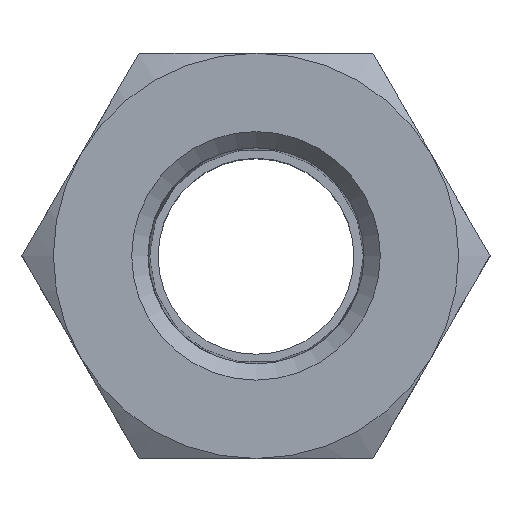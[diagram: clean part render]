
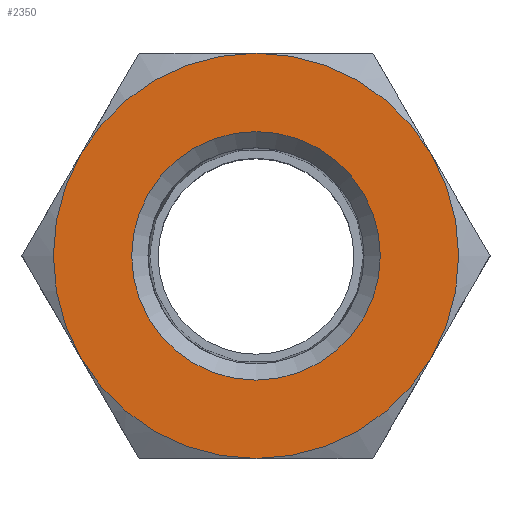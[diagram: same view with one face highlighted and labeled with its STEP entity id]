
A CAD part, top view. The second image highlights one B-rep face of the part: STEP entity #2350.
In plain terms, the highlighted planar face has unit normal (0, 0, 1).
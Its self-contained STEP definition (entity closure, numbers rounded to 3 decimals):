
#2350=ADVANCED_FACE('', (#2360,#2370), #2380, .T.);
#7640=AXIS2_PLACEMENT_3D('Ax2Pl3d', #7650, #7660, #7670);
#7680=AXIS2_PLACEMENT_3D('Ax2Pl3d', #7690, #7700, #7710);
#7720=AXIS2_PLACEMENT_3D('Ax2Pl3d', #7730, #7740, #7750);
#7760=AXIS2_PLACEMENT_3D('Ax2Pl3d', #7770, #7780, #7790);
#7800=AXIS2_PLACEMENT_3D('Ax2Pl3d', #7810, #7820, #7830);
#7840=AXIS2_PLACEMENT_3D('Ax2Pl3d', #7850, #7860, #7870);
#7880=AXIS2_PLACEMENT_3D('Ax2Pl3d', #7890, #7900, #7910);
#7920=AXIS2_PLACEMENT_3D('Ax2Pl3d', #7930, #7940, #7950);
#11340=CARTESIAN_POINT('', (12.561,25.818,50.819));
#11420=CARTESIAN_POINT('', (25.551,33.318,50.819));
#11430=CARTESIAN_POINT('', (38.541,25.818,50.819));
#11460=CARTESIAN_POINT('', (38.541,10.818,50.819));
#11490=CARTESIAN_POINT('', (25.551,3.318,50.819));
#11520=CARTESIAN_POINT('', (12.561,10.818,50.819));
#7650=CARTESIAN_POINT('HicPkt', (25.551,18.318,50.819));
#7690=CARTESIAN_POINT('HicPkt', (25.551,3.318,50.819));
#7730=CARTESIAN_POINT('HicPkt', (25.551,18.318,50.819));
#7770=CARTESIAN_POINT('HicPkt', (25.551,18.318,50.819));
#7810=CARTESIAN_POINT('HicPkt', (25.551,18.318,50.819));
#7850=CARTESIAN_POINT('HicPkt', (25.551,18.318,50.819));
#7890=CARTESIAN_POINT('HicPkt', (25.551,18.318,50.819));
#7930=CARTESIAN_POINT('HicPkt', (25.551,18.318,50.819));
#11530=CARTESIAN_POINT('', (25.551,27.518,50.819));
#12080=CIRCLE('Circle', #7640, 15.);
#12090=CIRCLE('Circle', #7720, 15.);
#12100=CIRCLE('Circle', #7760, 15.);
#12110=CIRCLE('Circle', #7800, 15.);
#12120=CIRCLE('Circle', #7840, 15.);
#12130=CIRCLE('Circle', #7880, 15.);
#12140=CIRCLE('Circle', #7920, 9.2);
#7660=DIRECTION('Axis', (0.,0.,-1.));
#7670=DIRECTION('RefDirection', (-1.,-0.,0.));
#7700=DIRECTION('Axis', (0.,0.,1.));
#7710=DIRECTION('RefDirection', (1.,0.,-0.));
#7740=DIRECTION('Axis', (0.,0.,-1.));
#7750=DIRECTION('RefDirection', (-1.,-0.,0.));
#7780=DIRECTION('Axis', (0.,0.,-1.));
#7790=DIRECTION('RefDirection', (-1.,-0.,0.));
#7820=DIRECTION('Axis', (0.,0.,-1.));
#7830=DIRECTION('RefDirection', (-1.,-0.,0.));
#7860=DIRECTION('Axis', (0.,0.,-1.));
#7870=DIRECTION('RefDirection', (-1.,-0.,0.));
#7900=DIRECTION('Axis', (0.,0.,-1.));
#7910=DIRECTION('RefDirection', (-1.,-0.,0.));
#7940=DIRECTION('Axis', (0.,0.,-1.));
#7950=DIRECTION('RefDirection', (-1.,-0.,0.));
#17790=EDGE_CURVE('', #17710, #17770, #12080, .T.);
#17800=EDGE_CURVE('', #17650, #17710, #12090, .T.);
#17810=EDGE_CURVE('', #17590, #17650, #12100, .T.);
#17820=EDGE_CURVE('', #17560, #17590, #12110, .T.);
#17830=EDGE_CURVE('', #17390, #17560, #12120, .T.);
#17840=EDGE_CURVE('', #17770, #17390, #12130, .T.);
#17850=EDGE_CURVE('', #17860, #17860, #12140, .T.);
#20720=EDGE_LOOP('Edge_loop', (#20730,#20740,#20750,#20760,#20770,
#20780));
#20790=EDGE_LOOP('Edge_loop', (#20800));
#2370=FACE_BOUND('', #20790, .T.);
#2360=FACE_OUTER_BOUND('Face_outer_bound', #20720, .T.);
#20730=ORIENTED_EDGE('', *, *, #17790, .F.);
#20740=ORIENTED_EDGE('', *, *, #17800, .F.);
#20750=ORIENTED_EDGE('', *, *, #17810, .F.);
#20760=ORIENTED_EDGE('', *, *, #17820, .F.);
#20770=ORIENTED_EDGE('', *, *, #17830, .F.);
#20780=ORIENTED_EDGE('', *, *, #17840, .F.);
#20800=ORIENTED_EDGE('', *, *, #17850, .T.);
#2380=PLANE('Plane', #7680);
#17390=VERTEX_POINT('', #11340);
#17560=VERTEX_POINT('', #11420);
#17590=VERTEX_POINT('', #11430);
#17650=VERTEX_POINT('', #11460);
#17710=VERTEX_POINT('', #11490);
#17770=VERTEX_POINT('', #11520);
#17860=VERTEX_POINT('', #11530);
